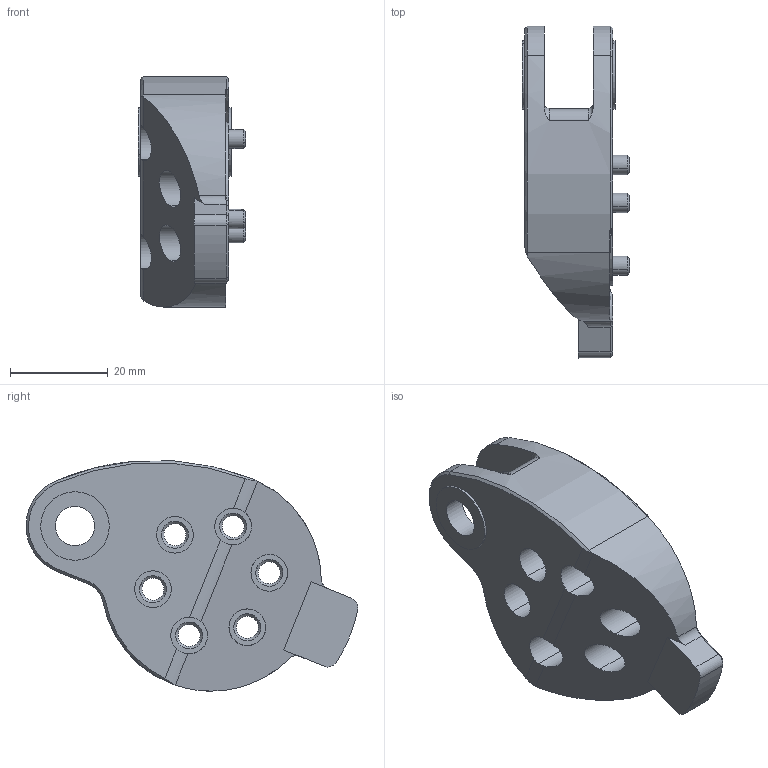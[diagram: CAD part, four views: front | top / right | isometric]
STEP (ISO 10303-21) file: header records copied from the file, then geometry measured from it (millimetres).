
FILE_DESCRIPTION((''),'2;1');
FILE_NAME('KD-D-502L_ANKLE-SHAFT-LEFT_1','2025-07-12T16:32:42',('Administrator'),(''),'CREO PARAMETRIC BY PTC INC, 2022073','CREO PARAMETRIC BY PTC INC, 2022073','');
FILE_SCHEMA(('CONFIG_CONTROL_DESIGN'));
Length unit declared in the file: millimetre
Products named in the file (1): KD-D-502L_ANKLE-SHAFT-LEFT_1
Bounding box: 22 x 67.8 x 47.04 mm (x, y, z)
Volume: 23951.2 mm3; surface area: 9656.7 mm2
Topology: 1 solids, 1 shells, 127 faces, 335 edges, 220 vertices
Faces by surface type: cylinder 60, cone 32, plane 29, torus 6
Entity records: 4252 total; most frequent: CARTESIAN_POINT 927, DIRECTION 732, ORIENTED_EDGE 670, EDGE_CURVE 335, AXIS2_PLACEMENT_3D 305, VERTEX_POINT 220, CIRCLE 178, EDGE_LOOP 153
